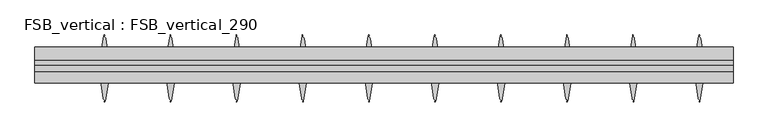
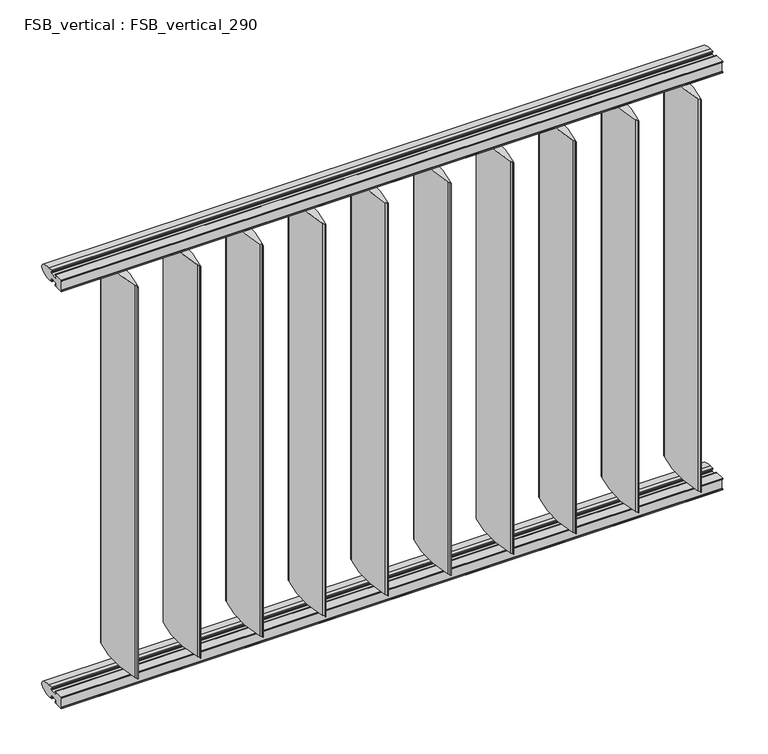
"""IFC4 building model written with IfcOpenShell, lengths in millimetres: proxy geometry, FSB_vertical : FSB_vertical_290."""

from ifc_helpers import new_model, si_unit, point, frame, frame_2d, origin, place, context, project, spatial, polyline, circle_curve, ellipse_curve, trimmed, segment, composite_curve, outline, extrude, source, transform, mapped, element, save
from ifc_brep_helpers import plane_surface, cylinder_surface, extruded_surface, advanced_brep


def fsb_vertical_fsb_vertical_290_152b3b5a(model_context):
    return source(origin(), model_context, "Body", "SolidModel", [
        extrude(outline(composite_curve([segment(polyline([(-1202.2501631, 145.0821859), (-1200.1609519, 144.3894327)]), True, "CONTINUOUS"), segment(trimmed(circle_curve(frame_2d((-518.8349422, -54.5219163)), 709.7681707), [point((-1200.1609519, 144.3894327))], [point((-1202.4368983, 136.4210644))], True, "CARTESIAN"), True, "CONTINUOUS"), segment(trimmed(circle_curve(frame_2d((-1205.4336534, 126.8817007)), 9.999), [point((-1202.4368983, 136.4210644))], [point((-1195.6900986, 129.1273945))], False, "CARTESIAN"), True, "CONTINUOUS"), segment(trimmed(circle_curve(frame_2d((-1755.9445, 0.0)), 574.9425), [point((-1195.6900986, 129.1273945))], [point((-1198.5166574, -140.8299634))], False, "CARTESIAN"), True, "CONTINUOUS"), segment(trimmed(circle_curve(frame_2d((-1891.6333502, 57.8909579)), 721.0414373), [point((-1198.5166574, -140.8299634))], [point((-1199.7501184, -145.082804))], False, "CARTESIAN"), True, "CONTINUOUS"), segment(polyline([(-1199.7501184, -145.082804), (-1201.8393297, -144.3900508)]), True, "CONTINUOUS"), segment(trimmed(circle_curve(frame_2d((-1883.1653394, 54.5212982)), 709.7681707), [point((-1201.8393297, -144.3900508))], [point((-1199.5633853, -136.4216898))], True, "CARTESIAN"), True, "CONTINUOUS"), segment(trimmed(circle_curve(frame_2d((-1196.5661691, -126.882471)), 9.999), [point((-1199.5633853, -136.4216898))], [point((-1206.3097207, -129.1281785))], False, "CARTESIAN"), True, "CONTINUOUS"), segment(trimmed(circle_curve(frame_2d((-646.0555, 0.0)), 574.9425), [point((-1206.3097207, -129.1281785))], [point((-1203.496556, 140.7776523))], False, "CARTESIAN"), True, "CONTINUOUS"), segment(trimmed(circle_curve(frame_2d((-347.864102, -104.6410215)), 890.1332607), [point((-1203.496556, 140.7776523))], [point((-1202.2501631, 145.0821859))], False, "CARTESIAN"), True, "CONTINUOUS")], self_intersect=False)), frame((0.0, 0.0, 60.5), z_axis=(0.0, 0.0, 1.0), x_axis=(1.0, 0.0, 0.0)), (0.0, 0.0, 1.0), 1879.0),
        extrude(outline(composite_curve([segment(polyline([(-918.2501631, 145.0821859), (-916.1609519, 144.3894327)]), True, "CONTINUOUS"), segment(trimmed(circle_curve(frame_2d((-234.8349422, -54.5219163)), 709.7681707), [point((-916.1609519, 144.3894327))], [point((-918.4368983, 136.4210644))], True, "CARTESIAN"), True, "CONTINUOUS"), segment(trimmed(circle_curve(frame_2d((-921.4336534, 126.8817007)), 9.999), [point((-918.4368983, 136.4210644))], [point((-911.6900986, 129.1273945))], False, "CARTESIAN"), True, "CONTINUOUS"), segment(trimmed(circle_curve(frame_2d((-1471.9445, 0.0)), 574.9425), [point((-911.6900986, 129.1273945))], [point((-914.5166574, -140.8299634))], False, "CARTESIAN"), True, "CONTINUOUS"), segment(trimmed(circle_curve(frame_2d((-1607.6333502, 57.8909579)), 721.0414373), [point((-914.5166574, -140.8299634))], [point((-915.7501184, -145.082804))], False, "CARTESIAN"), True, "CONTINUOUS"), segment(polyline([(-915.7501184, -145.082804), (-917.8393297, -144.3900508)]), True, "CONTINUOUS"), segment(trimmed(circle_curve(frame_2d((-1599.1653394, 54.5212982)), 709.7681707), [point((-917.8393297, -144.3900508))], [point((-915.5633853, -136.4216898))], True, "CARTESIAN"), True, "CONTINUOUS"), segment(trimmed(circle_curve(frame_2d((-912.5661691, -126.882471)), 9.999), [point((-915.5633853, -136.4216898))], [point((-922.3097207, -129.1281785))], False, "CARTESIAN"), True, "CONTINUOUS"), segment(trimmed(circle_curve(frame_2d((-362.0555, 0.0)), 574.9425), [point((-922.3097207, -129.1281785))], [point((-919.496556, 140.7776523))], False, "CARTESIAN"), True, "CONTINUOUS"), segment(trimmed(circle_curve(frame_2d((-63.864102, -104.6410215)), 890.1332607), [point((-919.496556, 140.7776523))], [point((-918.2501631, 145.0821859))], False, "CARTESIAN"), True, "CONTINUOUS")], self_intersect=False)), frame((0.0, 0.0, 60.5), z_axis=(0.0, 0.0, 1.0), x_axis=(1.0, 0.0, 0.0)), (0.0, 0.0, 1.0), 1879.0),
        extrude(outline(composite_curve([segment(polyline([(-634.2501631, 145.0821859), (-632.1609519, 144.3894327)]), True, "CONTINUOUS"), segment(trimmed(circle_curve(frame_2d((49.1650578, -54.5219163)), 709.7681707), [point((-632.1609519, 144.3894327))], [point((-634.4368983, 136.4210644))], True, "CARTESIAN"), True, "CONTINUOUS"), segment(trimmed(circle_curve(frame_2d((-637.4336534, 126.8817007)), 9.999), [point((-634.4368983, 136.4210644))], [point((-627.6900986, 129.1273945))], False, "CARTESIAN"), True, "CONTINUOUS"), segment(trimmed(circle_curve(frame_2d((-1187.9445, 0.0)), 574.9425), [point((-627.6900986, 129.1273945))], [point((-630.5166574, -140.8299634))], False, "CARTESIAN"), True, "CONTINUOUS"), segment(trimmed(circle_curve(frame_2d((-1323.6333502, 57.8909579)), 721.0414373), [point((-630.5166574, -140.8299634))], [point((-631.7501184, -145.082804))], False, "CARTESIAN"), True, "CONTINUOUS"), segment(polyline([(-631.7501184, -145.082804), (-633.8393297, -144.3900508)]), True, "CONTINUOUS"), segment(trimmed(circle_curve(frame_2d((-1315.1653394, 54.5212982)), 709.7681707), [point((-633.8393297, -144.3900508))], [point((-631.5633853, -136.4216898))], True, "CARTESIAN"), True, "CONTINUOUS"), segment(trimmed(circle_curve(frame_2d((-628.5661691, -126.882471)), 9.999), [point((-631.5633853, -136.4216898))], [point((-638.3097207, -129.1281785))], False, "CARTESIAN"), True, "CONTINUOUS"), segment(trimmed(circle_curve(frame_2d((-78.0555, 0.0)), 574.9425), [point((-638.3097207, -129.1281785))], [point((-635.496556, 140.7776523))], False, "CARTESIAN"), True, "CONTINUOUS"), segment(trimmed(circle_curve(frame_2d((220.135898, -104.6410215)), 890.1332607), [point((-635.496556, 140.7776523))], [point((-634.2501631, 145.0821859))], False, "CARTESIAN"), True, "CONTINUOUS")], self_intersect=False)), frame((0.0, 0.0, 60.5), z_axis=(0.0, 0.0, 1.0), x_axis=(1.0, 0.0, 0.0)), (0.0, 0.0, 1.0), 1879.0),
        extrude(outline(composite_curve([segment(polyline([(-350.2501631, 145.0821859), (-348.1609519, 144.3894327)]), True, "CONTINUOUS"), segment(trimmed(circle_curve(frame_2d((333.1650578, -54.5219163)), 709.7681707), [point((-348.1609519, 144.3894327))], [point((-350.4368983, 136.4210644))], True, "CARTESIAN"), True, "CONTINUOUS"), segment(trimmed(circle_curve(frame_2d((-353.4336534, 126.8817007)), 9.999), [point((-350.4368983, 136.4210644))], [point((-343.6900986, 129.1273945))], False, "CARTESIAN"), True, "CONTINUOUS"), segment(trimmed(circle_curve(frame_2d((-903.9445, 0.0)), 574.9425), [point((-343.6900986, 129.1273945))], [point((-346.5166574, -140.8299634))], False, "CARTESIAN"), True, "CONTINUOUS"), segment(trimmed(circle_curve(frame_2d((-1039.6333502, 57.8909579)), 721.0414373), [point((-346.5166574, -140.8299634))], [point((-347.7501184, -145.082804))], False, "CARTESIAN"), True, "CONTINUOUS"), segment(polyline([(-347.7501184, -145.082804), (-349.8393297, -144.3900508)]), True, "CONTINUOUS"), segment(trimmed(circle_curve(frame_2d((-1031.1653394, 54.5212982)), 709.7681707), [point((-349.8393297, -144.3900508))], [point((-347.5633853, -136.4216898))], True, "CARTESIAN"), True, "CONTINUOUS"), segment(trimmed(circle_curve(frame_2d((-344.5661691, -126.882471)), 9.999), [point((-347.5633853, -136.4216898))], [point((-354.3097207, -129.1281785))], False, "CARTESIAN"), True, "CONTINUOUS"), segment(trimmed(circle_curve(frame_2d((205.9445, 0.0)), 574.9425), [point((-354.3097207, -129.1281785))], [point((-351.496556, 140.7776523))], False, "CARTESIAN"), True, "CONTINUOUS"), segment(trimmed(circle_curve(frame_2d((504.135898, -104.6410215)), 890.1332607), [point((-351.496556, 140.7776523))], [point((-350.2501631, 145.0821859))], False, "CARTESIAN"), True, "CONTINUOUS")], self_intersect=False)), frame((0.0, 0.0, 60.5), z_axis=(0.0, 0.0, 1.0), x_axis=(1.0, 0.0, 0.0)), (0.0, 0.0, 1.0), 1879.0),
        extrude(outline(composite_curve([segment(polyline([(-66.2501631, 145.0821859), (-64.1609519, 144.3894327)]), True, "CONTINUOUS"), segment(trimmed(circle_curve(frame_2d((617.1650578, -54.5219163)), 709.7681707), [point((-64.1609519, 144.3894327))], [point((-66.4368983, 136.4210644))], True, "CARTESIAN"), True, "CONTINUOUS"), segment(trimmed(circle_curve(frame_2d((-69.4336534, 126.8817007)), 9.999), [point((-66.4368983, 136.4210644))], [point((-59.6900986, 129.1273945))], False, "CARTESIAN"), True, "CONTINUOUS"), segment(trimmed(circle_curve(frame_2d((-619.9445, 0.0)), 574.9425), [point((-59.6900986, 129.1273945))], [point((-62.5166574, -140.8299634))], False, "CARTESIAN"), True, "CONTINUOUS"), segment(trimmed(circle_curve(frame_2d((-755.6333502, 57.8909579)), 721.0414373), [point((-62.5166574, -140.8299634))], [point((-63.7501184, -145.082804))], False, "CARTESIAN"), True, "CONTINUOUS"), segment(polyline([(-63.7501184, -145.082804), (-65.8393297, -144.3900508)]), True, "CONTINUOUS"), segment(trimmed(circle_curve(frame_2d((-747.1653394, 54.5212982)), 709.7681707), [point((-65.8393297, -144.3900508))], [point((-63.5633853, -136.4216898))], True, "CARTESIAN"), True, "CONTINUOUS"), segment(trimmed(circle_curve(frame_2d((-60.5661691, -126.882471)), 9.999), [point((-63.5633853, -136.4216898))], [point((-70.3097207, -129.1281785))], False, "CARTESIAN"), True, "CONTINUOUS"), segment(trimmed(circle_curve(frame_2d((489.9445, 0.0)), 574.9425), [point((-70.3097207, -129.1281785))], [point((-67.496556, 140.7776523))], False, "CARTESIAN"), True, "CONTINUOUS"), segment(trimmed(circle_curve(frame_2d((788.135898, -104.6410215)), 890.1332607), [point((-67.496556, 140.7776523))], [point((-66.2501631, 145.0821859))], False, "CARTESIAN"), True, "CONTINUOUS")], self_intersect=False)), frame((0.0, 0.0, 60.5), z_axis=(0.0, 0.0, 1.0), x_axis=(1.0, 0.0, 0.0)), (0.0, 0.0, 1.0), 1879.0),
        extrude(outline(composite_curve([segment(polyline([(217.7498369, 145.0821859), (219.8390481, 144.3894327)]), True, "CONTINUOUS"), segment(trimmed(circle_curve(frame_2d((901.1650578, -54.5219163)), 709.7681707), [point((219.8390481, 144.3894327))], [point((217.5631017, 136.4210644))], True, "CARTESIAN"), True, "CONTINUOUS"), segment(trimmed(circle_curve(frame_2d((214.5663466, 126.8817007)), 9.999), [point((217.5631017, 136.4210644))], [point((224.3099014, 129.1273945))], False, "CARTESIAN"), True, "CONTINUOUS"), segment(trimmed(circle_curve(frame_2d((-335.9445, 0.0)), 574.9425), [point((224.3099014, 129.1273945))], [point((221.4833426, -140.8299634))], False, "CARTESIAN"), True, "CONTINUOUS"), segment(trimmed(circle_curve(frame_2d((-471.6333502, 57.8909579)), 721.0414373), [point((221.4833426, -140.8299634))], [point((220.2498816, -145.082804))], False, "CARTESIAN"), True, "CONTINUOUS"), segment(polyline([(220.2498816, -145.082804), (218.1606703, -144.3900508)]), True, "CONTINUOUS"), segment(trimmed(circle_curve(frame_2d((-463.1653394, 54.5212982)), 709.7681707), [point((218.1606703, -144.3900508))], [point((220.4366147, -136.4216898))], True, "CARTESIAN"), True, "CONTINUOUS"), segment(trimmed(circle_curve(frame_2d((223.4338309, -126.882471)), 9.999), [point((220.4366147, -136.4216898))], [point((213.6902793, -129.1281785))], False, "CARTESIAN"), True, "CONTINUOUS"), segment(trimmed(circle_curve(frame_2d((773.9445, 0.0)), 574.9425), [point((213.6902793, -129.1281785))], [point((216.503444, 140.7776523))], False, "CARTESIAN"), True, "CONTINUOUS"), segment(trimmed(circle_curve(frame_2d((1072.135898, -104.6410215)), 890.1332607), [point((216.503444, 140.7776523))], [point((217.7498369, 145.0821859))], False, "CARTESIAN"), True, "CONTINUOUS")], self_intersect=False)), frame((0.0, 0.0, 60.5), z_axis=(0.0, 0.0, 1.0), x_axis=(1.0, 0.0, 0.0)), (0.0, 0.0, 1.0), 1879.0),
        extrude(outline(composite_curve([segment(polyline([(501.7498369, 145.0821859), (503.8390481, 144.3894327)]), True, "CONTINUOUS"), segment(trimmed(circle_curve(frame_2d((1185.1650578, -54.5219163)), 709.7681707), [point((503.8390481, 144.3894327))], [point((501.5631017, 136.4210644))], True, "CARTESIAN"), True, "CONTINUOUS"), segment(trimmed(circle_curve(frame_2d((498.5663466, 126.8817007)), 9.999), [point((501.5631017, 136.4210644))], [point((508.3099014, 129.1273945))], False, "CARTESIAN"), True, "CONTINUOUS"), segment(trimmed(circle_curve(frame_2d((-51.9445, 0.0)), 574.9425), [point((508.3099014, 129.1273945))], [point((505.4833426, -140.8299634))], False, "CARTESIAN"), True, "CONTINUOUS"), segment(trimmed(circle_curve(frame_2d((-187.6333502, 57.8909579)), 721.0414373), [point((505.4833426, -140.8299634))], [point((504.2498816, -145.082804))], False, "CARTESIAN"), True, "CONTINUOUS"), segment(polyline([(504.2498816, -145.082804), (502.1606703, -144.3900508)]), True, "CONTINUOUS"), segment(trimmed(circle_curve(frame_2d((-179.1653394, 54.5212982)), 709.7681707), [point((502.1606703, -144.3900508))], [point((504.4366147, -136.4216898))], True, "CARTESIAN"), True, "CONTINUOUS"), segment(trimmed(circle_curve(frame_2d((507.4338309, -126.882471)), 9.999), [point((504.4366147, -136.4216898))], [point((497.6902793, -129.1281785))], False, "CARTESIAN"), True, "CONTINUOUS"), segment(trimmed(circle_curve(frame_2d((1057.9445, 0.0)), 574.9425), [point((497.6902793, -129.1281785))], [point((500.503444, 140.7776523))], False, "CARTESIAN"), True, "CONTINUOUS"), segment(trimmed(circle_curve(frame_2d((1356.135898, -104.6410215)), 890.1332607), [point((500.503444, 140.7776523))], [point((501.7498369, 145.0821859))], False, "CARTESIAN"), True, "CONTINUOUS")], self_intersect=False)), frame((0.0, 0.0, 60.5), z_axis=(0.0, 0.0, 1.0), x_axis=(1.0, 0.0, 0.0)), (0.0, 0.0, 1.0), 1879.0),
        extrude(outline(composite_curve([segment(polyline([(785.7498369, 145.0821859), (787.8390481, 144.3894327)]), True, "CONTINUOUS"), segment(trimmed(circle_curve(frame_2d((1469.1650578, -54.5219163)), 709.7681707), [point((787.8390481, 144.3894327))], [point((785.5631017, 136.4210644))], True, "CARTESIAN"), True, "CONTINUOUS"), segment(trimmed(circle_curve(frame_2d((782.5663466, 126.8817007)), 9.999), [point((785.5631017, 136.4210644))], [point((792.3099014, 129.1273945))], False, "CARTESIAN"), True, "CONTINUOUS"), segment(trimmed(circle_curve(frame_2d((232.0555, 0.0)), 574.9425), [point((792.3099014, 129.1273945))], [point((789.4833426, -140.8299634))], False, "CARTESIAN"), True, "CONTINUOUS"), segment(trimmed(circle_curve(frame_2d((96.3666498, 57.8909579)), 721.0414373), [point((789.4833426, -140.8299634))], [point((788.2498816, -145.082804))], False, "CARTESIAN"), True, "CONTINUOUS"), segment(polyline([(788.2498816, -145.082804), (786.1606703, -144.3900508)]), True, "CONTINUOUS"), segment(trimmed(circle_curve(frame_2d((104.8346606, 54.5212982)), 709.7681707), [point((786.1606703, -144.3900508))], [point((788.4366147, -136.4216898))], True, "CARTESIAN"), True, "CONTINUOUS"), segment(trimmed(circle_curve(frame_2d((791.4338309, -126.882471)), 9.999), [point((788.4366147, -136.4216898))], [point((781.6902793, -129.1281785))], False, "CARTESIAN"), True, "CONTINUOUS"), segment(trimmed(circle_curve(frame_2d((1341.9445, 0.0)), 574.9425), [point((781.6902793, -129.1281785))], [point((784.503444, 140.7776523))], False, "CARTESIAN"), True, "CONTINUOUS"), segment(trimmed(circle_curve(frame_2d((1640.135898, -104.6410215)), 890.1332607), [point((784.503444, 140.7776523))], [point((785.7498369, 145.0821859))], False, "CARTESIAN"), True, "CONTINUOUS")], self_intersect=False)), frame((0.0, 0.0, 60.5), z_axis=(0.0, 0.0, 1.0), x_axis=(1.0, 0.0, 0.0)), (0.0, 0.0, 1.0), 1879.0),
        extrude(outline(composite_curve([segment(polyline([(1069.7498369, 145.0821859), (1071.8390481, 144.3894327)]), True, "CONTINUOUS"), segment(trimmed(circle_curve(frame_2d((1753.1650578, -54.5219163)), 709.7681707), [point((1071.8390481, 144.3894327))], [point((1069.5631017, 136.4210644))], True, "CARTESIAN"), True, "CONTINUOUS"), segment(trimmed(circle_curve(frame_2d((1066.5663466, 126.8817007)), 9.999), [point((1069.5631017, 136.4210644))], [point((1076.3099014, 129.1273945))], False, "CARTESIAN"), True, "CONTINUOUS"), segment(trimmed(circle_curve(frame_2d((516.0555, 0.0)), 574.9425), [point((1076.3099014, 129.1273945))], [point((1073.4833426, -140.8299634))], False, "CARTESIAN"), True, "CONTINUOUS"), segment(trimmed(circle_curve(frame_2d((380.3666498, 57.8909579)), 721.0414373), [point((1073.4833426, -140.8299634))], [point((1072.2498816, -145.082804))], False, "CARTESIAN"), True, "CONTINUOUS"), segment(polyline([(1072.2498816, -145.082804), (1070.1606703, -144.3900508)]), True, "CONTINUOUS"), segment(trimmed(circle_curve(frame_2d((388.8346606, 54.5212982)), 709.7681707), [point((1070.1606703, -144.3900508))], [point((1072.4366147, -136.4216898))], True, "CARTESIAN"), True, "CONTINUOUS"), segment(trimmed(circle_curve(frame_2d((1075.4338309, -126.882471)), 9.999), [point((1072.4366147, -136.4216898))], [point((1065.6902793, -129.1281785))], False, "CARTESIAN"), True, "CONTINUOUS"), segment(trimmed(circle_curve(frame_2d((1625.9445, 0.0)), 574.9425), [point((1065.6902793, -129.1281785))], [point((1068.503444, 140.7776523))], False, "CARTESIAN"), True, "CONTINUOUS"), segment(trimmed(circle_curve(frame_2d((1924.135898, -104.6410215)), 890.1332607), [point((1068.503444, 140.7776523))], [point((1069.7498369, 145.0821859))], False, "CARTESIAN"), True, "CONTINUOUS")], self_intersect=False)), frame((0.0, 0.0, 60.5), z_axis=(0.0, 0.0, 1.0), x_axis=(1.0, 0.0, 0.0)), (0.0, 0.0, 1.0), 1879.0),
        extrude(outline(composite_curve([segment(polyline([(1353.7498369, 145.0821859), (1355.8390481, 144.3894327)]), True, "CONTINUOUS"), segment(trimmed(circle_curve(frame_2d((2037.1650578, -54.5219163)), 709.7681707), [point((1355.8390481, 144.3894327))], [point((1353.5631017, 136.4210644))], True, "CARTESIAN"), True, "CONTINUOUS"), segment(trimmed(circle_curve(frame_2d((1350.5663466, 126.8817007)), 9.999), [point((1353.5631017, 136.4210644))], [point((1360.3099014, 129.1273945))], False, "CARTESIAN"), True, "CONTINUOUS"), segment(trimmed(circle_curve(frame_2d((800.0555, 0.0)), 574.9425), [point((1360.3099014, 129.1273945))], [point((1357.4833426, -140.8299634))], False, "CARTESIAN"), True, "CONTINUOUS"), segment(trimmed(circle_curve(frame_2d((664.3666498, 57.8909579)), 721.0414373), [point((1357.4833426, -140.8299634))], [point((1356.2498816, -145.082804))], False, "CARTESIAN"), True, "CONTINUOUS"), segment(polyline([(1356.2498816, -145.082804), (1354.1606703, -144.3900508)]), True, "CONTINUOUS"), segment(trimmed(circle_curve(frame_2d((672.8346606, 54.5212982)), 709.7681707), [point((1354.1606703, -144.3900508))], [point((1356.4366147, -136.4216898))], True, "CARTESIAN"), True, "CONTINUOUS"), segment(trimmed(circle_curve(frame_2d((1359.4338309, -126.882471)), 9.999), [point((1356.4366147, -136.4216898))], [point((1349.6902793, -129.1281785))], False, "CARTESIAN"), True, "CONTINUOUS"), segment(trimmed(circle_curve(frame_2d((1909.9445, 0.0)), 574.9425), [point((1349.6902793, -129.1281785))], [point((1352.503444, 140.7776523))], False, "CARTESIAN"), True, "CONTINUOUS"), segment(trimmed(circle_curve(frame_2d((2208.135898, -104.6410215)), 890.1332607), [point((1352.503444, 140.7776523))], [point((1353.7498369, 145.0821859))], False, "CARTESIAN"), True, "CONTINUOUS")], self_intersect=False)), frame((0.0, 0.0, 60.5), z_axis=(0.0, 0.0, 1.0), x_axis=(1.0, 0.0, 0.0)), (0.0, 0.0, 1.0), 1879.0),
        advanced_brep(
        [(-1500.0, 35.515, 27.4994269), (-1500.0, 35.515, -27.5000975), (-1500.0, 14.55, -27.5000975), (-1500.0, 14.55, -22.4), (-1500.0, 16.55, -22.4), (-1500.0, 16.55, -24.5000975), (-1500.0, 17.55, -25.5000975), (-1500.0, 22.175, -25.5000975), (-1500.0, 22.175, -14.05), (-1500.0, 18.5225, -14.05), (-1500.0, 18.5225, -11.0), (-1500.0, -18.5225, -11.0), (-1500.0, -18.5225, -14.05), (-1500.0, -22.175, -14.05), (-1500.0, -22.175, -25.3000975), (-1500.0, -17.55, -25.3000975), (-1500.0, -16.55, -24.3000975), (-1500.0, -16.55, -22.4), (-1500.0, -14.55, -22.4), (-1500.0, -14.55, -27.5000975), (-1500.0, -63.0727525, -27.5000975), (-1500.0, -63.0727525, -24.0000975), (-1500.0, -62.0727525, -23.0000975), (-1500.0, -60.5727525, -23.0000975), (-1500.0, -60.5727525, -25.0000975), (-1500.0, -57.5727525, -25.0000975), (-1500.0, -57.5727525, 25.0000975), (-1500.0, -60.5727525, 25.0000975), (-1500.0, -60.5727525, 23.0000975), (-1500.0, -62.0727525, 23.0000975), (-1500.0, -63.0727525, 24.0000975), (-1500.0, -63.0727525, 27.5000975), (-1500.0, -14.55, 27.5000975), (-1500.0, -14.55, 22.4), (-1500.0, -16.55, 22.4), (-1500.0, -16.55, 24.3000975), (-1500.0, -17.55, 25.3000975), (-1500.0, -22.175, 25.3000975), (-1500.0, -22.175, 14.05), (-1500.0, -18.5225, 14.05), (-1500.0, -18.5225, 11.0), (-1500.0, 18.5225, 11.0), (-1500.0, 18.5225, 14.05), (-1500.0, 22.175, 14.05), (-1500.0, 22.175, 25.5000975), (-1500.0, 17.55, 25.5000975), (-1500.0, 16.55, 24.5000975), (-1500.0, 16.55, 22.4), (-1500.0, 14.55, 22.4), (-1500.0, 14.55, 27.4994269), (1500.0, 35.515, 27.4994269), (1500.0, 14.55, 27.4994269), (1500.0, 14.55, 22.4), (1500.0, 16.55, 22.4), (1500.0, 16.55, 24.5000975), (1500.0, 17.55, 25.5000975), (1500.0, 22.175, 25.5000975), (1500.0, 22.175, 14.05), (1500.0, 18.5225, 14.05), (1500.0, 18.5225, 11.0), (1500.0, -18.5225, 11.0), (1500.0, -18.5225, 14.05), (1500.0, -22.175, 14.05), (1500.0, -22.175, 25.3000975), (1500.0, -17.55, 25.3000975), (1500.0, -16.55, 24.3000975), (1500.0, -16.55, 22.4), (1500.0, -14.55, 22.4), (1500.0, -14.55, 27.5000975), (1500.0, -63.0727525, 27.5000975), (1500.0, -63.0727525, 24.0000975), (1500.0, -62.0727525, 23.0000975), (1500.0, -60.5727525, 23.0000975), (1500.0, -60.5727525, 25.0000975), (1500.0, -57.5727525, 25.0000975), (1500.0, -57.5727525, -25.0000975), (1500.0, -60.5727525, -25.0000975), (1500.0, -60.5727525, -23.0000975), (1500.0, -62.0727525, -23.0000975), (1500.0, -63.0727525, -24.0000975), (1500.0, -63.0727525, -27.5000975), (1500.0, -14.55, -27.5000975), (1500.0, -14.55, -22.4), (1500.0, -16.55, -22.4), (1500.0, -16.55, -24.3000975), (1500.0, -17.55, -25.3000975), (1500.0, -22.175, -25.3000975), (1500.0, -22.175, -14.05), (1500.0, -18.5225, -14.05), (1500.0, -18.5225, -11.0), (1500.0, 18.5225, -11.0), (1500.0, 18.5225, -14.05), (1500.0, 22.175, -14.05), (1500.0, 22.175, -25.5000975), (1500.0, 17.55, -25.5000975), (1500.0, 16.55, -24.5000975), (1500.0, 16.55, -22.4), (1500.0, 14.55, -22.4), (1500.0, 14.55, -27.5000975), (1500.0, 35.515, -27.5000975)],
        [
            (0, 1, ellipse_curve(frame((-1500.0, 35.515, -0.0003353), z_axis=(-1.0, 0.0, 0.0), x_axis=(0.0, 1.0, 0.0)), 56.4122475, 27.4997622)),
            (1, 2),
            (2, 3),
            (3, 4),
            (4, 5),
            (5, 6),
            (6, 7),
            (7, 8),
            (8, 9),
            (9, 10),
            (10, 11),
            (11, 12),
            (12, 13),
            (13, 14),
            (14, 15),
            (15, 16),
            (16, 17),
            (17, 18),
            (18, 19),
            (19, 20),
            (20, 21),
            (21, 22, circle_curve(frame((-1500.0, -62.0727525, -24.0000975), z_axis=(-1.0, 0.0, 0.0), x_axis=(0.0, 0.0, 1.0)), 1.0)),
            (22, 23),
            (23, 24),
            (24, 25),
            (25, 26),
            (26, 27),
            (27, 28),
            (28, 29),
            (29, 30, circle_curve(frame((-1500.0, -62.0727525, 24.0000975), z_axis=(-1.0, 0.0, 0.0), x_axis=(0.0, -1.0, 0.0)), 1.0)),
            (30, 31),
            (31, 32),
            (32, 33),
            (33, 34),
            (34, 35),
            (35, 36),
            (36, 37),
            (37, 38),
            (38, 39),
            (39, 40),
            (40, 41),
            (41, 42),
            (42, 43),
            (43, 44),
            (44, 45),
            (45, 46),
            (46, 47),
            (47, 48),
            (48, 49),
            (49, 0),
            (50, 51),
            (51, 52),
            (52, 53),
            (53, 54),
            (54, 55),
            (55, 56),
            (56, 57),
            (57, 58),
            (58, 59),
            (59, 60),
            (60, 61),
            (61, 62),
            (62, 63),
            (63, 64),
            (64, 65),
            (65, 66),
            (66, 67),
            (67, 68),
            (68, 69),
            (69, 70),
            (70, 71, circle_curve(frame((1500.0, -62.0727525, 24.0000975), z_axis=(1.0, 0.0, 0.0), x_axis=(0.0, -1.0, 0.0)), 1.0)),
            (71, 72),
            (72, 73),
            (73, 74),
            (74, 75),
            (75, 76),
            (76, 77),
            (77, 78),
            (78, 79, circle_curve(frame((1500.0, -62.0727525, -24.0000975), z_axis=(1.0, 0.0, 0.0), x_axis=(0.0, 0.0, 1.0)), 1.0)),
            (79, 80),
            (80, 81),
            (81, 82),
            (82, 83),
            (83, 84),
            (84, 85),
            (85, 86),
            (86, 87),
            (87, 88),
            (88, 89),
            (89, 90),
            (90, 91),
            (91, 92),
            (92, 93),
            (93, 94),
            (94, 95),
            (95, 96),
            (96, 97),
            (97, 98),
            (98, 99),
            (99, 50, ellipse_curve(frame((1500.0, 35.515, -0.0003353), z_axis=(1.0, 0.0, 0.0), x_axis=(0.0, 1.0, 0.0)), 56.4122475, 27.4997622)),
            (0, 50),
            (99, 1),
            (98, 2),
            (97, 3),
            (96, 4),
            (95, 5),
            (94, 6),
            (93, 7),
            (92, 8),
            (91, 9),
            (90, 10),
            (89, 11),
            (88, 12),
            (87, 13),
            (86, 14),
            (85, 15),
            (84, 16),
            (83, 17),
            (82, 18),
            (81, 19),
            (80, 20),
            (79, 21),
            (78, 22),
            (77, 23),
            (76, 24),
            (75, 25),
            (74, 26),
            (73, 27),
            (72, 28),
            (71, 29),
            (70, 30),
            (69, 31),
            (68, 32),
            (67, 33),
            (66, 34),
            (65, 35),
            (64, 36),
            (63, 37),
            (62, 38),
            (61, 39),
            (60, 40),
            (59, 41),
            (58, 42),
            (57, 43),
            (56, 44),
            (55, 45),
            (54, 46),
            (53, 47),
            (52, 48),
            (51, 49),
        ],
        [
            plane_surface(frame((-1500.0, 0.0, 0.0), z_axis=(-1.0, 0.0, 0.0), x_axis=(0.0, -1.0, 0.0))),
            plane_surface(frame((1500.0, 0.0, 0.0), z_axis=(1.0, 0.0, 0.0), x_axis=(0.0, -1.0, 0.0))),
            extruded_surface(trimmed(ellipse_curve(frame((1500.0, 35.515, -0.0003353), z_axis=(-1.0, 0.0, 0.0), x_axis=(0.0, 1.0, 0.0)), 56.4122475, 27.4997622), [point((1500.0, 35.515, 27.4994269))], [point((1500.0, 35.515, -27.5000975))], True, "CARTESIAN"), (-3000.0, 0.0, 0.0), 3000.0),
            plane_surface(frame((-1500.0, 35.515, -27.5000975), z_axis=(0.0, 0.0, -1.0), x_axis=(1.0, 0.0, 0.0))),
            plane_surface(frame((-1500.0, 14.55, -27.5000975), z_axis=(0.0, -1.0, 0.0), x_axis=(1.0, 0.0, 0.0))),
            plane_surface(frame((-1500.0, 14.55, -22.4), z_axis=(0.0, 0.0, 1.0), x_axis=(1.0, 0.0, 0.0))),
            plane_surface(frame((-1500.0, 16.55, -22.4), z_axis=(0.0, 1.0, 0.0), x_axis=(1.0, 0.0, 0.0))),
            plane_surface(frame((-1500.0, 16.55, -24.5000975), z_axis=(0.0, 0.707106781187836, 0.707106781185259), x_axis=(1.0, 0.0, 0.0))),
            plane_surface(frame((-1500.0, 17.55, -25.5000975), z_axis=(0.0, 0.0, 1.0), x_axis=(1.0, 0.0, 0.0))),
            plane_surface(frame((-1500.0, 22.175, -25.5000975), z_axis=(0.0, -1.0, 0.0), x_axis=(1.0, 0.0, 0.0))),
            plane_surface(frame((-1500.0, 22.175, -14.05), z_axis=(0.0, 0.0, -1.0), x_axis=(1.0, 0.0, 0.0))),
            plane_surface(frame((-1500.0, 18.5225, -14.05), z_axis=(0.0, -1.0, 0.0), x_axis=(1.0, 0.0, 0.0))),
            plane_surface(frame((-1500.0, 18.5225, -11.0), z_axis=(0.0, 0.0, -1.0), x_axis=(1.0, 0.0, 0.0))),
            plane_surface(frame((-1500.0, -18.5225, -11.0), z_axis=(0.0, 1.0, 0.0), x_axis=(1.0, 0.0, 0.0))),
            plane_surface(frame((-1500.0, -18.5225, -14.05), z_axis=(0.0, 0.0, -1.0), x_axis=(1.0, 0.0, 0.0))),
            plane_surface(frame((-1500.0, -22.175, -14.05), z_axis=(0.0, 1.0, 0.0), x_axis=(1.0, 0.0, 0.0))),
            plane_surface(frame((-1500.0, -22.175, -25.3000975), z_axis=(0.0, 0.0, 1.0), x_axis=(1.0, 0.0, 0.0))),
            plane_surface(frame((-1500.0, -17.55, -25.3000975), z_axis=(0.0, -0.7071067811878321, 0.7071067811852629), x_axis=(1.0, 0.0, 0.0))),
            plane_surface(frame((-1500.0, -16.55, -24.3000975), z_axis=(0.0, -1.0, 0.0), x_axis=(1.0, 0.0, 0.0))),
            plane_surface(frame((-1500.0, -16.55, -22.4), z_axis=(0.0, 0.0, 1.0), x_axis=(1.0, 0.0, 0.0))),
            plane_surface(frame((-1500.0, -14.55, -22.4), z_axis=(0.0, 1.0, 0.0), x_axis=(1.0, 0.0, 0.0))),
            plane_surface(frame((-1500.0, -14.55, -27.5000975), z_axis=(0.0, 0.0, -1.0), x_axis=(1.0, 0.0, 0.0))),
            plane_surface(frame((-1500.0, -63.0727525, -27.5000975), z_axis=(0.0, -1.0, 0.0), x_axis=(1.0, 0.0, 0.0))),
            cylinder_surface(frame((-1500.0, -62.0727525, -24.0000975), z_axis=(-1.0, 0.0, 0.0), x_axis=(0.0, 0.0, 1.0)), 1.0),
            plane_surface(frame((-1500.0, -62.0727525, -23.0000975), z_axis=(0.0, 0.0, 1.0), x_axis=(1.0, 0.0, 0.0))),
            plane_surface(frame((-1500.0, -60.5727525, -23.0000975), z_axis=(0.0, 1.0, 0.0), x_axis=(1.0, 0.0, 0.0))),
            plane_surface(frame((-1500.0, -60.5727525, -25.0000975), z_axis=(0.0, 0.0, 1.0), x_axis=(1.0, 0.0, 0.0))),
            plane_surface(frame((-1500.0, -57.5727525, -25.0000975), z_axis=(0.0, -1.0, 0.0), x_axis=(1.0, 0.0, 0.0))),
            plane_surface(frame((-1500.0, -57.5727525, 25.0000975), z_axis=(0.0, 0.0, -1.0), x_axis=(1.0, 0.0, 0.0))),
            plane_surface(frame((-1500.0, -60.5727525, 25.0000975), z_axis=(0.0, 1.0, 0.0), x_axis=(1.0, 0.0, 0.0))),
            plane_surface(frame((-1500.0, -60.5727525, 23.0000975), z_axis=(0.0, 0.0, -1.0), x_axis=(1.0, 0.0, 0.0))),
            cylinder_surface(frame((-1500.0, -62.0727525, 24.0000975), z_axis=(-1.0, 0.0, 0.0), x_axis=(0.0, -1.0, 0.0)), 1.0),
            plane_surface(frame((-1500.0, -63.0727525, 24.0000975), z_axis=(0.0, -1.0, 0.0), x_axis=(1.0, 0.0, 0.0))),
            plane_surface(frame((-1500.0, -63.0727525, 27.5000975), z_axis=(0.0, 0.0, 1.0), x_axis=(1.0, 0.0, 0.0))),
            plane_surface(frame((-1500.0, -14.55, 27.5000975), z_axis=(0.0, 1.0, 0.0), x_axis=(1.0, 0.0, 0.0))),
            plane_surface(frame((-1500.0, -14.55, 22.4), z_axis=(0.0, 0.0, -1.0), x_axis=(1.0, 0.0, 0.0))),
            plane_surface(frame((-1500.0, -16.55, 22.4), z_axis=(0.0, -1.0, 0.0), x_axis=(1.0, 0.0, 0.0))),
            plane_surface(frame((-1500.0, -16.55, 24.3000975), z_axis=(0.0, -0.7071067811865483, -0.7071067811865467), x_axis=(1.0, 0.0, 0.0))),
            plane_surface(frame((-1500.0, -17.55, 25.3000975), z_axis=(0.0, 0.0, -1.0), x_axis=(1.0, 0.0, 0.0))),
            plane_surface(frame((-1500.0, -22.175, 25.3000975), z_axis=(0.0, 1.0, 0.0), x_axis=(1.0, 0.0, 0.0))),
            plane_surface(frame((-1500.0, -22.175, 14.05), z_axis=(0.0, 0.0, 1.0), x_axis=(1.0, 0.0, 0.0))),
            plane_surface(frame((-1500.0, -18.5225, 14.05), z_axis=(0.0, 1.0, 0.0), x_axis=(1.0, 0.0, 0.0))),
            plane_surface(frame((-1500.0, -18.5225, 11.0), z_axis=(0.0, 0.0, 1.0), x_axis=(1.0, 0.0, 0.0))),
            plane_surface(frame((-1500.0, 18.5225, 11.0), z_axis=(0.0, -1.0, 0.0), x_axis=(1.0, 0.0, 0.0))),
            plane_surface(frame((-1500.0, 18.5225, 14.05), z_axis=(0.0, 0.0, 1.0), x_axis=(1.0, 0.0, 0.0))),
            plane_surface(frame((-1500.0, 22.175, 14.05), z_axis=(0.0, -1.0, 0.0), x_axis=(1.0, 0.0, 0.0))),
            plane_surface(frame((-1500.0, 22.175, 25.5000975), z_axis=(0.0, 0.0, -1.0), x_axis=(1.0, 0.0, 0.0))),
            plane_surface(frame((-1500.0, 17.55, 25.5000975), z_axis=(0.0, 0.7071067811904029, -0.7071067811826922), x_axis=(1.0, 0.0, 0.0))),
            plane_surface(frame((-1500.0, 16.55, 24.5000975), z_axis=(0.0, 1.0, 0.0), x_axis=(1.0, 0.0, 0.0))),
            plane_surface(frame((-1500.0, 16.55, 22.4), z_axis=(0.0, 0.0, -1.0), x_axis=(1.0, 0.0, 0.0))),
            plane_surface(frame((-1500.0, 14.55, 22.4), z_axis=(0.0, -1.0, 0.0), x_axis=(1.0, 0.0, 0.0))),
            plane_surface(frame((-1500.0, 14.55, 27.4994269), z_axis=(0.0, 0.0, 1.0), x_axis=(1.0, 0.0, 0.0))),
        ],
        [
            (0, [[1, 2, 3, 4, 5, 6, 7, 8, 9, 10, 11, 12, 13, 14, 15, 16, 17, 18, 19, 20, 21, 22, 23, 24, 25, 26, 27, 28, 29, 30, 31, 32, 33, 34, 35, 36, 37, 38, 39, 40, 41, 42, 43, 44, 45, 46, 47, 48, 49, 50]]),
            (1, [[51, 52, 53, 54, 55, 56, 57, 58, 59, 60, 61, 62, 63, 64, 65, 66, 67, 68, 69, 70, 71, 72, 73, 74, 75, 76, 77, 78, 79, 80, 81, 82, 83, 84, 85, 86, 87, 88, 89, 90, 91, 92, 93, 94, 95, 96, 97, 98, 99, 100]]),
            (2, [[-1, 101, -100, 102]]),
            (3, [[-2, -102, -99, 103]]),
            (4, [[-3, -103, -98, 104]]),
            (5, [[-4, -104, -97, 105]]),
            (6, [[-5, -105, -96, 106]]),
            (7, [[-6, -106, -95, 107]]),
            (8, [[-7, -107, -94, 108]]),
            (9, [[-8, -108, -93, 109]]),
            (10, [[-9, -109, -92, 110]]),
            (11, [[-10, -110, -91, 111]]),
            (12, [[-11, -111, -90, 112]]),
            (13, [[-12, -112, -89, 113]]),
            (14, [[-13, -113, -88, 114]]),
            (15, [[-14, -114, -87, 115]]),
            (16, [[-15, -115, -86, 116]]),
            (17, [[-16, -116, -85, 117]]),
            (18, [[-17, -117, -84, 118]]),
            (19, [[-18, -118, -83, 119]]),
            (20, [[-19, -119, -82, 120]]),
            (21, [[-20, -120, -81, 121]]),
            (22, [[-21, -121, -80, 122]]),
            (23, [[-22, -122, -79, 123]]),
            (24, [[-23, -123, -78, 124]]),
            (25, [[-24, -124, -77, 125]]),
            (26, [[-25, -125, -76, 126]]),
            (27, [[-26, -126, -75, 127]]),
            (28, [[-27, -127, -74, 128]]),
            (29, [[-28, -128, -73, 129]]),
            (30, [[-29, -129, -72, 130]]),
            (31, [[-30, -130, -71, 131]]),
            (32, [[-31, -131, -70, 132]]),
            (33, [[-32, -132, -69, 133]]),
            (34, [[-33, -133, -68, 134]]),
            (35, [[-34, -134, -67, 135]]),
            (36, [[-35, -135, -66, 136]]),
            (37, [[-36, -136, -65, 137]]),
            (38, [[-37, -137, -64, 138]]),
            (39, [[-38, -138, -63, 139]]),
            (40, [[-39, -139, -62, 140]]),
            (41, [[-40, -140, -61, 141]]),
            (42, [[-41, -141, -60, 142]]),
            (43, [[-42, -142, -59, 143]]),
            (44, [[-43, -143, -58, 144]]),
            (45, [[-44, -144, -57, 145]]),
            (46, [[-45, -145, -56, 146]]),
            (47, [[-46, -146, -55, 147]]),
            (48, [[-47, -147, -54, 148]]),
            (49, [[-48, -148, -53, 149]]),
            (50, [[-49, -149, -52, 150]]),
            (51, [[-50, -150, -51, -101]]),
        ],
    ),
        advanced_brep(
        [(-1500.0, 35.515, 2027.4994269), (-1500.0, 35.515, 1972.4999025), (-1500.0, 14.55, 1972.4999025), (-1500.0, 14.55, 1977.6), (-1500.0, 16.55, 1977.6), (-1500.0, 16.55, 1975.4999025), (-1500.0, 17.55, 1974.4999025), (-1500.0, 22.175, 1974.4999025), (-1500.0, 22.175, 1985.95), (-1500.0, 18.5225, 1985.95), (-1500.0, 18.5225, 1989.0), (-1500.0, -18.5225, 1989.0), (-1500.0, -18.5225, 1985.95), (-1500.0, -22.175, 1985.95), (-1500.0, -22.175, 1974.6999025), (-1500.0, -17.55, 1974.6999025), (-1500.0, -16.55, 1975.6999025), (-1500.0, -16.55, 1977.6), (-1500.0, -14.55, 1977.6), (-1500.0, -14.55, 1972.4999025), (-1500.0, -63.0727525, 1972.4999025), (-1500.0, -63.0727525, 1975.9999025), (-1500.0, -62.0727525, 1976.9999025), (-1500.0, -60.5727525, 1976.9999025), (-1500.0, -60.5727525, 1974.9999025), (-1500.0, -57.5727525, 1974.9999025), (-1500.0, -57.5727525, 2025.0000975), (-1500.0, -60.5727525, 2025.0000975), (-1500.0, -60.5727525, 2023.0000975), (-1500.0, -62.0727525, 2023.0000975), (-1500.0, -63.0727525, 2024.0000975), (-1500.0, -63.0727525, 2027.5000975), (-1500.0, -14.55, 2027.5000975), (-1500.0, -14.55, 2022.4), (-1500.0, -16.55, 2022.4), (-1500.0, -16.55, 2024.3000975), (-1500.0, -17.55, 2025.3000975), (-1500.0, -22.175, 2025.3000975), (-1500.0, -22.175, 2014.05), (-1500.0, -18.5225, 2014.05), (-1500.0, -18.5225, 2011.0), (-1500.0, 18.5225, 2011.0), (-1500.0, 18.5225, 2014.05), (-1500.0, 22.175, 2014.05), (-1500.0, 22.175, 2025.5000975), (-1500.0, 17.55, 2025.5000975), (-1500.0, 16.55, 2024.5000975), (-1500.0, 16.55, 2022.4), (-1500.0, 14.55, 2022.4), (-1500.0, 14.55, 2027.4994269), (1500.0, 35.515, 2027.4994269), (1500.0, 14.55, 2027.4994269), (1500.0, 14.55, 2022.4), (1500.0, 16.55, 2022.4), (1500.0, 16.55, 2024.5000975), (1500.0, 17.55, 2025.5000975), (1500.0, 22.175, 2025.5000975), (1500.0, 22.175, 2014.05), (1500.0, 18.5225, 2014.05), (1500.0, 18.5225, 2011.0), (1500.0, -18.5225, 2011.0), (1500.0, -18.5225, 2014.05), (1500.0, -22.175, 2014.05), (1500.0, -22.175, 2025.3000975), (1500.0, -17.55, 2025.3000975), (1500.0, -16.55, 2024.3000975), (1500.0, -16.55, 2022.4), (1500.0, -14.55, 2022.4), (1500.0, -14.55, 2027.5000975), (1500.0, -63.0727525, 2027.5000975), (1500.0, -63.0727525, 2024.0000975), (1500.0, -62.0727525, 2023.0000975), (1500.0, -60.5727525, 2023.0000975), (1500.0, -60.5727525, 2025.0000975), (1500.0, -57.5727525, 2025.0000975), (1500.0, -57.5727525, 1974.9999025), (1500.0, -60.5727525, 1974.9999025), (1500.0, -60.5727525, 1976.9999025), (1500.0, -62.0727525, 1976.9999025), (1500.0, -63.0727525, 1975.9999025), (1500.0, -63.0727525, 1972.4999025), (1500.0, -14.55, 1972.4999025), (1500.0, -14.55, 1977.6), (1500.0, -16.55, 1977.6), (1500.0, -16.55, 1975.6999025), (1500.0, -17.55, 1974.6999025), (1500.0, -22.175, 1974.6999025), (1500.0, -22.175, 1985.95), (1500.0, -18.5225, 1985.95), (1500.0, -18.5225, 1989.0), (1500.0, 18.5225, 1989.0), (1500.0, 18.5225, 1985.95), (1500.0, 22.175, 1985.95), (1500.0, 22.175, 1974.4999025), (1500.0, 17.55, 1974.4999025), (1500.0, 16.55, 1975.4999025), (1500.0, 16.55, 1977.6), (1500.0, 14.55, 1977.6), (1500.0, 14.55, 1972.4999025), (1500.0, 35.515, 1972.4999025)],
        [
            (0, 1, ellipse_curve(frame((-1500.0, 35.515, 1999.9996647), z_axis=(-1.0, 0.0, 0.0), x_axis=(0.0, 1.0, 0.0)), 56.4122475, 27.4997622)),
            (1, 2),
            (2, 3),
            (3, 4),
            (4, 5),
            (5, 6),
            (6, 7),
            (7, 8),
            (8, 9),
            (9, 10),
            (10, 11),
            (11, 12),
            (12, 13),
            (13, 14),
            (14, 15),
            (15, 16),
            (16, 17),
            (17, 18),
            (18, 19),
            (19, 20),
            (20, 21),
            (21, 22, circle_curve(frame((-1500.0, -62.0727525, 1975.9999025), z_axis=(-1.0, 0.0, 0.0), x_axis=(0.0, 0.0, 1.0)), 1.0)),
            (22, 23),
            (23, 24),
            (24, 25),
            (25, 26),
            (26, 27),
            (27, 28),
            (28, 29),
            (29, 30, circle_curve(frame((-1500.0, -62.0727525, 2024.0000975), z_axis=(-1.0, 0.0, 0.0), x_axis=(0.0, -1.0, 0.0)), 1.0)),
            (30, 31),
            (31, 32),
            (32, 33),
            (33, 34),
            (34, 35),
            (35, 36),
            (36, 37),
            (37, 38),
            (38, 39),
            (39, 40),
            (40, 41),
            (41, 42),
            (42, 43),
            (43, 44),
            (44, 45),
            (45, 46),
            (46, 47),
            (47, 48),
            (48, 49),
            (49, 0),
            (50, 51),
            (51, 52),
            (52, 53),
            (53, 54),
            (54, 55),
            (55, 56),
            (56, 57),
            (57, 58),
            (58, 59),
            (59, 60),
            (60, 61),
            (61, 62),
            (62, 63),
            (63, 64),
            (64, 65),
            (65, 66),
            (66, 67),
            (67, 68),
            (68, 69),
            (69, 70),
            (70, 71, circle_curve(frame((1500.0, -62.0727525, 2024.0000975), z_axis=(1.0, 0.0, 0.0), x_axis=(0.0, -1.0, 0.0)), 1.0)),
            (71, 72),
            (72, 73),
            (73, 74),
            (74, 75),
            (75, 76),
            (76, 77),
            (77, 78),
            (78, 79, circle_curve(frame((1500.0, -62.0727525, 1975.9999025), z_axis=(1.0, 0.0, 0.0), x_axis=(0.0, 0.0, 1.0)), 1.0)),
            (79, 80),
            (80, 81),
            (81, 82),
            (82, 83),
            (83, 84),
            (84, 85),
            (85, 86),
            (86, 87),
            (87, 88),
            (88, 89),
            (89, 90),
            (90, 91),
            (91, 92),
            (92, 93),
            (93, 94),
            (94, 95),
            (95, 96),
            (96, 97),
            (97, 98),
            (98, 99),
            (99, 50, ellipse_curve(frame((1500.0, 35.515, 1999.9996647), z_axis=(1.0, 0.0, 0.0), x_axis=(0.0, 1.0, 0.0)), 56.4122475, 27.4997622)),
            (0, 50),
            (99, 1),
            (98, 2),
            (97, 3),
            (96, 4),
            (95, 5),
            (94, 6),
            (93, 7),
            (92, 8),
            (91, 9),
            (90, 10),
            (89, 11),
            (88, 12),
            (87, 13),
            (86, 14),
            (85, 15),
            (84, 16),
            (83, 17),
            (82, 18),
            (81, 19),
            (80, 20),
            (79, 21),
            (78, 22),
            (77, 23),
            (76, 24),
            (75, 25),
            (74, 26),
            (73, 27),
            (72, 28),
            (71, 29),
            (70, 30),
            (69, 31),
            (68, 32),
            (67, 33),
            (66, 34),
            (65, 35),
            (64, 36),
            (63, 37),
            (62, 38),
            (61, 39),
            (60, 40),
            (59, 41),
            (58, 42),
            (57, 43),
            (56, 44),
            (55, 45),
            (54, 46),
            (53, 47),
            (52, 48),
            (51, 49),
        ],
        [
            plane_surface(frame((-1500.0, 0.0, 2000.0), z_axis=(-1.0, 0.0, 0.0), x_axis=(0.0, -1.0, 0.0))),
            plane_surface(frame((1500.0, 0.0, 2000.0), z_axis=(1.0, 0.0, 0.0), x_axis=(0.0, -1.0, 0.0))),
            extruded_surface(trimmed(ellipse_curve(frame((1500.0, 35.515, 1999.9996647), z_axis=(-1.0, 0.0, 0.0), x_axis=(0.0, 1.0, 0.0)), 56.4122475, 27.4997622), [point((1500.0, 35.515, 2027.4994269))], [point((1500.0, 35.515, 1972.4999025))], True, "CARTESIAN"), (-3000.0, 0.0, 0.0), 3000.0),
            plane_surface(frame((-1500.0, 35.515, 1972.4999025), z_axis=(0.0, 0.0, -1.0), x_axis=(1.0, 0.0, 0.0))),
            plane_surface(frame((-1500.0, 14.55, 1972.4999025), z_axis=(0.0, -1.0, 0.0), x_axis=(1.0, 0.0, 0.0))),
            plane_surface(frame((-1500.0, 14.55, 1977.6), z_axis=(0.0, 0.0, 1.0), x_axis=(1.0, 0.0, 0.0))),
            plane_surface(frame((-1500.0, 16.55, 1977.6), z_axis=(0.0, 1.0, 0.0), x_axis=(1.0, 0.0, 0.0))),
            plane_surface(frame((-1500.0, 16.55, 1975.4999025), z_axis=(0.0, 0.707106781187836, 0.707106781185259), x_axis=(1.0, 0.0, 0.0))),
            plane_surface(frame((-1500.0, 17.55, 1974.4999025), z_axis=(0.0, 0.0, 1.0), x_axis=(1.0, 0.0, 0.0))),
            plane_surface(frame((-1500.0, 22.175, 1974.4999025), z_axis=(0.0, -1.0, 0.0), x_axis=(1.0, 0.0, 0.0))),
            plane_surface(frame((-1500.0, 22.175, 1985.95), z_axis=(0.0, 0.0, -1.0), x_axis=(1.0, 0.0, 0.0))),
            plane_surface(frame((-1500.0, 18.5225, 1985.95), z_axis=(0.0, -1.0, 0.0), x_axis=(1.0, 0.0, 0.0))),
            plane_surface(frame((-1500.0, 18.5225, 1989.0), z_axis=(0.0, 0.0, -1.0), x_axis=(1.0, 0.0, 0.0))),
            plane_surface(frame((-1500.0, -18.5225, 1989.0), z_axis=(0.0, 1.0, 0.0), x_axis=(1.0, 0.0, 0.0))),
            plane_surface(frame((-1500.0, -18.5225, 1985.95), z_axis=(0.0, 0.0, -1.0), x_axis=(1.0, 0.0, 0.0))),
            plane_surface(frame((-1500.0, -22.175, 1985.95), z_axis=(0.0, 1.0, 0.0), x_axis=(1.0, 0.0, 0.0))),
            plane_surface(frame((-1500.0, -22.175, 1974.6999025), z_axis=(0.0, 0.0, 1.0), x_axis=(1.0, 0.0, 0.0))),
            plane_surface(frame((-1500.0, -17.55, 1974.6999025), z_axis=(0.0, -0.7071067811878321, 0.7071067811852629), x_axis=(1.0, 0.0, 0.0))),
            plane_surface(frame((-1500.0, -16.55, 1975.6999025), z_axis=(0.0, -1.0, 0.0), x_axis=(1.0, 0.0, 0.0))),
            plane_surface(frame((-1500.0, -16.55, 1977.6), z_axis=(0.0, 0.0, 1.0), x_axis=(1.0, 0.0, 0.0))),
            plane_surface(frame((-1500.0, -14.55, 1977.6), z_axis=(0.0, 1.0, 0.0), x_axis=(1.0, 0.0, 0.0))),
            plane_surface(frame((-1500.0, -14.55, 1972.4999025), z_axis=(0.0, 0.0, -1.0), x_axis=(1.0, 0.0, 0.0))),
            plane_surface(frame((-1500.0, -63.0727525, 1972.4999025), z_axis=(0.0, -1.0, 0.0), x_axis=(1.0, 0.0, 0.0))),
            cylinder_surface(frame((-1500.0, -62.0727525, 1975.9999025), z_axis=(-1.0, 0.0, 0.0), x_axis=(0.0, 0.0, 1.0)), 1.0),
            plane_surface(frame((-1500.0, -62.0727525, 1976.9999025), z_axis=(0.0, 0.0, 1.0), x_axis=(1.0, 0.0, 0.0))),
            plane_surface(frame((-1500.0, -60.5727525, 1976.9999025), z_axis=(0.0, 1.0, 0.0), x_axis=(1.0, 0.0, 0.0))),
            plane_surface(frame((-1500.0, -60.5727525, 1974.9999025), z_axis=(0.0, 0.0, 1.0), x_axis=(1.0, 0.0, 0.0))),
            plane_surface(frame((-1500.0, -57.5727525, 1974.9999025), z_axis=(0.0, -1.0, 0.0), x_axis=(1.0, 0.0, 0.0))),
            plane_surface(frame((-1500.0, -57.5727525, 2025.0000975), z_axis=(0.0, 0.0, -1.0), x_axis=(1.0, 0.0, 0.0))),
            plane_surface(frame((-1500.0, -60.5727525, 2025.0000975), z_axis=(0.0, 1.0, 0.0), x_axis=(1.0, 0.0, 0.0))),
            plane_surface(frame((-1500.0, -60.5727525, 2023.0000975), z_axis=(0.0, 0.0, -1.0), x_axis=(1.0, 0.0, 0.0))),
            cylinder_surface(frame((-1500.0, -62.0727525, 2024.0000975), z_axis=(-1.0, 0.0, 0.0), x_axis=(0.0, -1.0, 0.0)), 1.0),
            plane_surface(frame((-1500.0, -63.0727525, 2024.0000975), z_axis=(0.0, -1.0, 0.0), x_axis=(1.0, 0.0, 0.0))),
            plane_surface(frame((-1500.0, -63.0727525, 2027.5000975), z_axis=(0.0, 0.0, 1.0), x_axis=(1.0, 0.0, 0.0))),
            plane_surface(frame((-1500.0, -14.55, 2027.5000975), z_axis=(0.0, 1.0, 0.0), x_axis=(1.0, 0.0, 0.0))),
            plane_surface(frame((-1500.0, -14.55, 2022.4), z_axis=(0.0, 0.0, -1.0), x_axis=(1.0, 0.0, 0.0))),
            plane_surface(frame((-1500.0, -16.55, 2022.4), z_axis=(0.0, -1.0, 0.0), x_axis=(1.0, 0.0, 0.0))),
            plane_surface(frame((-1500.0, -16.55, 2024.3000975), z_axis=(0.0, -0.7071067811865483, -0.7071067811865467), x_axis=(1.0, 0.0, 0.0))),
            plane_surface(frame((-1500.0, -17.55, 2025.3000975), z_axis=(0.0, 0.0, -1.0), x_axis=(1.0, 0.0, 0.0))),
            plane_surface(frame((-1500.0, -22.175, 2025.3000975), z_axis=(0.0, 1.0, 0.0), x_axis=(1.0, 0.0, 0.0))),
            plane_surface(frame((-1500.0, -22.175, 2014.05), z_axis=(0.0, 0.0, 1.0), x_axis=(1.0, 0.0, 0.0))),
            plane_surface(frame((-1500.0, -18.5225, 2014.05), z_axis=(0.0, 1.0, 0.0), x_axis=(1.0, 0.0, 0.0))),
            plane_surface(frame((-1500.0, -18.5225, 2011.0), z_axis=(0.0, 0.0, 1.0), x_axis=(1.0, 0.0, 0.0))),
            plane_surface(frame((-1500.0, 18.5225, 2011.0), z_axis=(0.0, -1.0, 0.0), x_axis=(1.0, 0.0, 0.0))),
            plane_surface(frame((-1500.0, 18.5225, 2014.05), z_axis=(0.0, 0.0, 1.0), x_axis=(1.0, 0.0, 0.0))),
            plane_surface(frame((-1500.0, 22.175, 2014.05), z_axis=(0.0, -1.0, 0.0), x_axis=(1.0, 0.0, 0.0))),
            plane_surface(frame((-1500.0, 22.175, 2025.5000975), z_axis=(0.0, 0.0, -1.0), x_axis=(1.0, 0.0, 0.0))),
            plane_surface(frame((-1500.0, 17.55, 2025.5000975), z_axis=(0.0, 0.7071067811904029, -0.7071067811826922), x_axis=(1.0, 0.0, 0.0))),
            plane_surface(frame((-1500.0, 16.55, 2024.5000975), z_axis=(0.0, 1.0, 0.0), x_axis=(1.0, 0.0, 0.0))),
            plane_surface(frame((-1500.0, 16.55, 2022.4), z_axis=(0.0, 0.0, -1.0), x_axis=(1.0, 0.0, 0.0))),
            plane_surface(frame((-1500.0, 14.55, 2022.4), z_axis=(0.0, -1.0, 0.0), x_axis=(1.0, 0.0, 0.0))),
            plane_surface(frame((-1500.0, 14.55, 2027.4994269), z_axis=(0.0, 0.0, 1.0), x_axis=(1.0, 0.0, 0.0))),
        ],
        [
            (0, [[1, 2, 3, 4, 5, 6, 7, 8, 9, 10, 11, 12, 13, 14, 15, 16, 17, 18, 19, 20, 21, 22, 23, 24, 25, 26, 27, 28, 29, 30, 31, 32, 33, 34, 35, 36, 37, 38, 39, 40, 41, 42, 43, 44, 45, 46, 47, 48, 49, 50]]),
            (1, [[51, 52, 53, 54, 55, 56, 57, 58, 59, 60, 61, 62, 63, 64, 65, 66, 67, 68, 69, 70, 71, 72, 73, 74, 75, 76, 77, 78, 79, 80, 81, 82, 83, 84, 85, 86, 87, 88, 89, 90, 91, 92, 93, 94, 95, 96, 97, 98, 99, 100]]),
            (2, [[-1, 101, -100, 102]]),
            (3, [[-2, -102, -99, 103]]),
            (4, [[-3, -103, -98, 104]]),
            (5, [[-4, -104, -97, 105]]),
            (6, [[-5, -105, -96, 106]]),
            (7, [[-6, -106, -95, 107]]),
            (8, [[-7, -107, -94, 108]]),
            (9, [[-8, -108, -93, 109]]),
            (10, [[-9, -109, -92, 110]]),
            (11, [[-10, -110, -91, 111]]),
            (12, [[-11, -111, -90, 112]]),
            (13, [[-12, -112, -89, 113]]),
            (14, [[-13, -113, -88, 114]]),
            (15, [[-14, -114, -87, 115]]),
            (16, [[-15, -115, -86, 116]]),
            (17, [[-16, -116, -85, 117]]),
            (18, [[-17, -117, -84, 118]]),
            (19, [[-18, -118, -83, 119]]),
            (20, [[-19, -119, -82, 120]]),
            (21, [[-20, -120, -81, 121]]),
            (22, [[-21, -121, -80, 122]]),
            (23, [[-22, -122, -79, 123]]),
            (24, [[-23, -123, -78, 124]]),
            (25, [[-24, -124, -77, 125]]),
            (26, [[-25, -125, -76, 126]]),
            (27, [[-26, -126, -75, 127]]),
            (28, [[-27, -127, -74, 128]]),
            (29, [[-28, -128, -73, 129]]),
            (30, [[-29, -129, -72, 130]]),
            (31, [[-30, -130, -71, 131]]),
            (32, [[-31, -131, -70, 132]]),
            (33, [[-32, -132, -69, 133]]),
            (34, [[-33, -133, -68, 134]]),
            (35, [[-34, -134, -67, 135]]),
            (36, [[-35, -135, -66, 136]]),
            (37, [[-36, -136, -65, 137]]),
            (38, [[-37, -137, -64, 138]]),
            (39, [[-38, -138, -63, 139]]),
            (40, [[-39, -139, -62, 140]]),
            (41, [[-40, -140, -61, 141]]),
            (42, [[-41, -141, -60, 142]]),
            (43, [[-42, -142, -59, 143]]),
            (44, [[-43, -143, -58, 144]]),
            (45, [[-44, -144, -57, 145]]),
            (46, [[-45, -145, -56, 146]]),
            (47, [[-46, -146, -55, 147]]),
            (48, [[-47, -147, -54, 148]]),
            (49, [[-48, -148, -53, 149]]),
            (50, [[-49, -149, -52, 150]]),
            (51, [[-50, -150, -51, -101]]),
        ],
    ),
    ])


if __name__ == "__main__":
    model = new_model("IFC4")
    model_context = context("Model", 3, world=origin())
    ifc_project = project(units=[si_unit("LENGTHUNIT", "METRE", prefix="MILLI")], contexts=[model_context])
    site = spatial("IfcSite", under=ifc_project)
    building = spatial("IfcBuilding", under=site)
    placement = place(None, origin())
    fsb_vertical_fsb_vertical_290_shape = fsb_vertical_fsb_vertical_290_152b3b5a(model_context)
    element("IfcBuildingElementProxy", 1, Name="FSB_vertical : FSB_vertical_290", ObjectType="FSB_vertical : FSB_vertical_290", at=placement, inside=building, context=model_context, shape_type="MappedRepresentation", body=[
        mapped(fsb_vertical_fsb_vertical_290_shape, transform((0.0, 0.0, 0.0), x_axis=(1.0, 0.0, 0.0), y_axis=(0.0, 1.0, 0.0), z_axis=(0.0, 0.0, 1.0))),
    ])
    save(model, "model.ifc")
